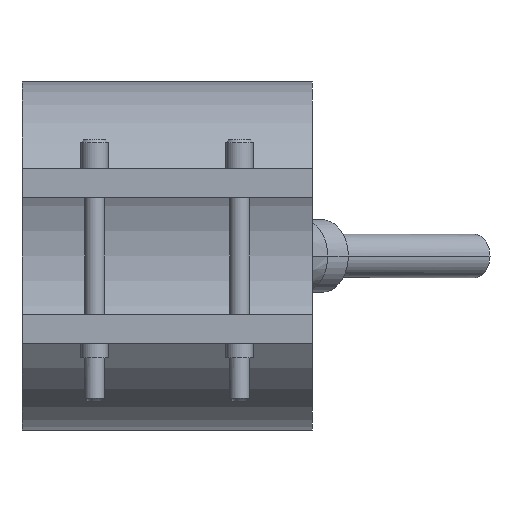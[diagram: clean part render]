
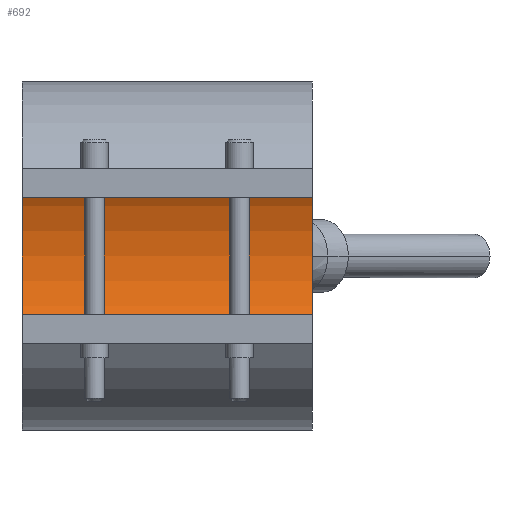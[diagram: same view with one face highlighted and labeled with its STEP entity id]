
A CAD part, front view. The second image highlights one B-rep face of the part: STEP entity #692.
In plain terms, the highlighted cylindrical face has radius 20 mm (diameter 40 mm), a partial arc.
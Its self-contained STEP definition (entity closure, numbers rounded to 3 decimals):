
#362=CARTESIAN_POINT('Vertex',(20.,0.,20.)) ;
#367=CARTESIAN_POINT('Axis2P3D Location',(20.,0.,0.)) ;
#371=CARTESIAN_POINT('Vertex',(20.,0.,-20.)) ;
#478=CARTESIAN_POINT('Vertex',(-20.,0.,-20.)) ;
#481=CARTESIAN_POINT('Axis2P3D Location',(-20.,0.,0.)) ;
#485=CARTESIAN_POINT('Vertex',(-20.,0.,20.)) ;
#664=CARTESIAN_POINT('Line Origine',(20.,0.,20.)) ;
#676=CARTESIAN_POINT('Axis2P3D Location',(20.,0.,0.)) ;
#681=CARTESIAN_POINT('Line Origine',(20.,0.,-20.)) ;
#368=DIRECTION('Axis2P3D Direction',(1.,0.,0.)) ;
#482=DIRECTION('Axis2P3D Direction',(1.,0.,0.)) ;
#665=DIRECTION('Vector Direction',(1.,0.,0.)) ;
#677=DIRECTION('Axis2P3D Direction',(1.,0.,-0.)) ;
#678=DIRECTION('Axis2P3D XDirection',(0.,0.,-1.)) ;
#682=DIRECTION('Vector Direction',(1.,0.,0.)) ;
#369=AXIS2_PLACEMENT_3D('Circle Axis2P3D',#367,#368,$) ;
#483=AXIS2_PLACEMENT_3D('Circle Axis2P3D',#481,#482,$) ;
#679=AXIS2_PLACEMENT_3D('Cylinder Axis2P3D',#676,#677,#678) ;
#687=ORIENTED_EDGE('',*,*,#373,.T.) ;
#688=ORIENTED_EDGE('',*,*,#668,.T.) ;
#689=ORIENTED_EDGE('',*,*,#487,.F.) ;
#690=ORIENTED_EDGE('',*,*,#685,.T.) ;
#666=VECTOR('Line Direction',#665,1.) ;
#683=VECTOR('Line Direction',#682,1.) ;
#692=ADVANCED_FACE('29040040',(#691),#680,.F.) ;
#370=CIRCLE('generated circle',#369,20.) ;
#484=CIRCLE('generated circle',#483,20.) ;
#680=CYLINDRICAL_SURFACE('generated cylinder',#679,20.) ;
#373=EDGE_CURVE('',#372,#363,#370,.T.) ;
#487=EDGE_CURVE('',#479,#486,#484,.T.) ;
#668=EDGE_CURVE('',#363,#486,#667,.F.) ;
#685=EDGE_CURVE('',#479,#372,#684,.T.) ;
#686=EDGE_LOOP('',(#687,#688,#689,#690)) ;
#691=FACE_OUTER_BOUND('',#686,.T.) ;
#667=LINE('Line',#664,#666) ;
#684=LINE('Line',#681,#683) ;
#363=VERTEX_POINT('',#362) ;
#372=VERTEX_POINT('',#371) ;
#479=VERTEX_POINT('',#478) ;
#486=VERTEX_POINT('',#485) ;
